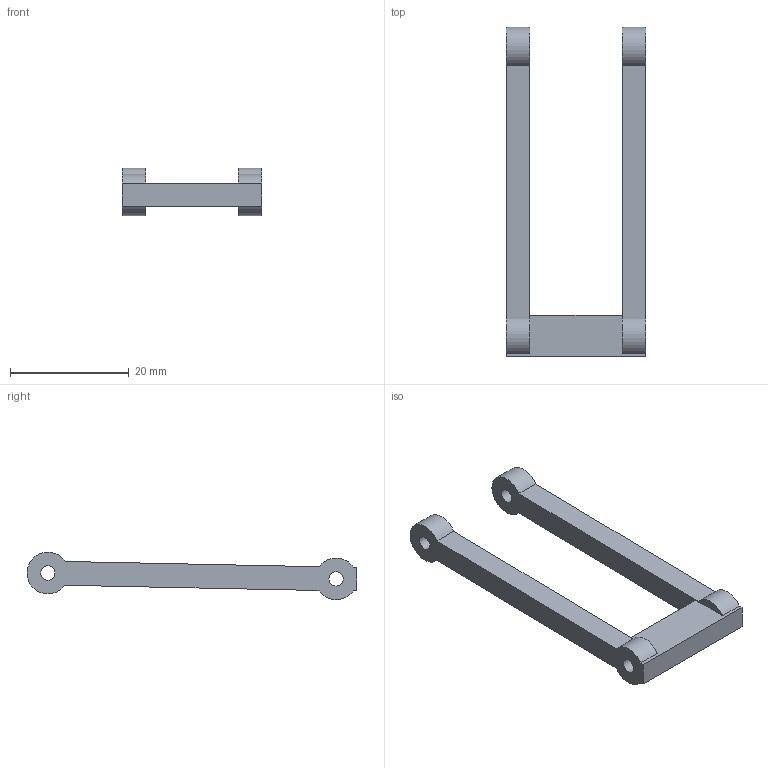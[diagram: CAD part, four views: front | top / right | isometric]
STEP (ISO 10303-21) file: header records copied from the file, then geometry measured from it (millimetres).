
FILE_DESCRIPTION(('Open CASCADE Model'),'2;1');
FILE_NAME('Open CASCADE Shape Model','2026-09-24T16:47:18',('Author'),( 'Open CASCADE'),'Open CASCADE STEP processor 8.0','Open CASCADE 8.0' ,'Unknown');
FILE_SCHEMA(('AP242_MANAGED_MODEL_BASED_3D_ENGINEERING_MIM_LF {1 0 10303 442 1 1 4 }' ));
Length unit declared in the file: millimetre
Products named in the file (1): Open CASCADE STEP translator 8.0 4
Bounding box: 23.5 x 55.49 x 7.99 mm (x, y, z)
Volume: 2255.2 mm3; surface area: 2453.5 mm2
Topology: 1 solids, 1 shells, 23 faces, 65 edges, 44 vertices
Faces by surface type: plane 14, cylinder 9
Full cylindrical faces by diameter (mm): 2.4 x3
Entity records: 1632 total; most frequent: CARTESIAN_POINT 287, DIRECTION 257, LINE 159, VECTOR 159, ORIENTED_EDGE 130, PCURVE 130, DEFINITIONAL_REPRESENTATION 130, EDGE_CURVE 65
